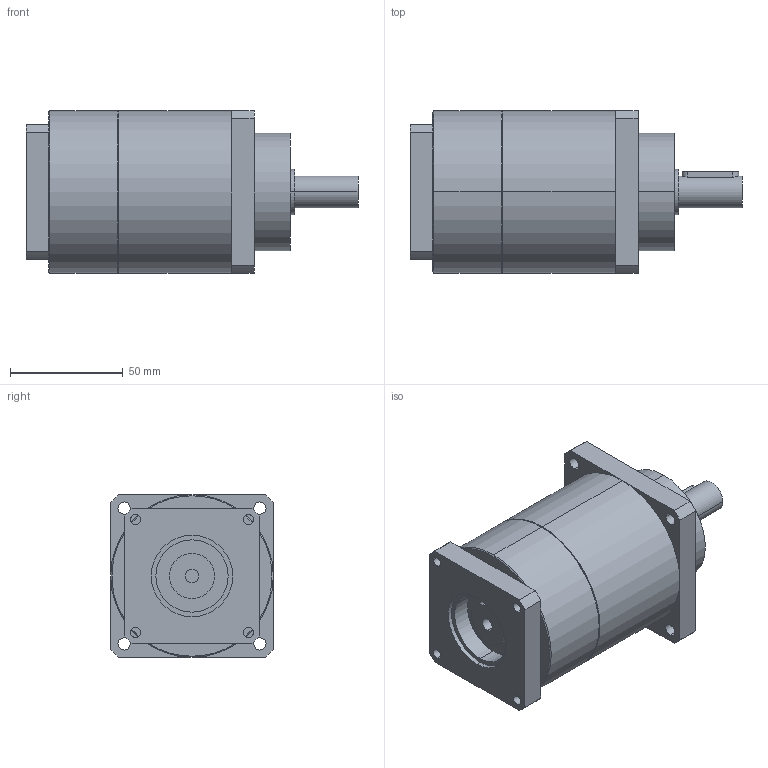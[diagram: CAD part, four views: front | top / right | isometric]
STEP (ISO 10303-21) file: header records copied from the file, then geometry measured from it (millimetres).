
FILE_DESCRIPTION(('CoCreate Modeling STEP Export'),'2;1');
FILE_NAME('GPT75_ig-9-12-16-20-25-28-35-40-50-70-100_14_B5T_6_P22.stp','2014-08-27T13:40:17',(''),(''),'CoCreate Modeling STEP processor for AP214 (Solid Model)','CoCreate Modeling 16.00C 25-Feb-2009 (C) Parametric Technology GmbH','');
FILE_SCHEMA(('AUTOMOTIVE_DESIGN { 1 0 10303 214 1 1 1 1 }'));
Length unit declared in the file: millimetre
Products named in the file (2): GPT75_ig-9-12-16-20-25-28-35-40-50-70-100_14_B5T_6_P22
Assembly tree (1 placements, depth 2):
  GPT75_ig-9-12-16-20-25-28-35-40-50-70-100_14_B5T_6_P22
    GPT75_ig-9-12-16-20-25-28-35-40-50-70-100_14_B5T_6_P22
Bounding box: 147 x 72 x 72 mm (x, y, z)
Volume: 446176 mm3; surface area: 41365.8 mm2
Topology: 1 solids, 1 shells, 88 faces, 226 edges, 145 vertices
Faces by surface type: cylinder 46, plane 38, cone 4
Entity records: 2676 total; most frequent: CARTESIAN_POINT 744, ORIENTED_EDGE 452, DIRECTION 334, EDGE_CURVE 226, VERTEX_POINT 145, AXIS2_PLACEMENT_3D 123, EDGE_LOOP 109, VECTOR 88
